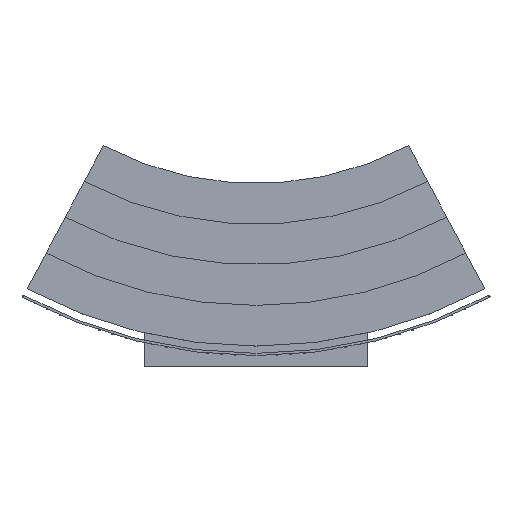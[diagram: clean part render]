
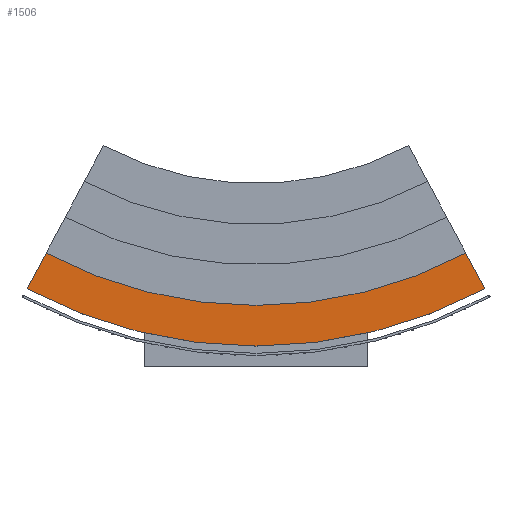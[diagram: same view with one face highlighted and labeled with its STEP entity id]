
A CAD part, top view. The second image highlights one B-rep face of the part: STEP entity #1506.
In plain terms, the highlighted planar face has unit normal (0, 0, 1).
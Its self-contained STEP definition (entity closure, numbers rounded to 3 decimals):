
#1274 = CYLINDRICAL_SURFACE('',#1275,17.078);
#1275 = AXIS2_PLACEMENT_3D('',#1276,#1277,#1278);
#1276 = CARTESIAN_POINT('',(0.,0.,1.45));
#1277 = DIRECTION('',(-0.,-0.,-1.));
#1278 = DIRECTION('',(1.,0.,0.));
#1299 = VERTEX_POINT('',#1300);
#1300 = CARTESIAN_POINT('',(-8.018,-15.079,1.8));
#1314 = PLANE('',#1315);
#1315 = AXIS2_PLACEMENT_3D('',#1316,#1317,#1318);
#1316 = CARTESIAN_POINT('',(-20.045,-37.698,1.35));
#1317 = DIRECTION('',(-0.883,0.469,0.));
#1318 = DIRECTION('',(0.469,0.883,0.));
#1326 = EDGE_CURVE('',#1299,#1327,#1329,.T.);
#1327 = VERTEX_POINT('',#1328);
#1328 = CARTESIAN_POINT('',(8.018,-15.079,1.8));
#1329 = SURFACE_CURVE('',#1330,(#1335,#1342),.PCURVE_S1.);
#1330 = CIRCLE('',#1331,17.078);
#1331 = AXIS2_PLACEMENT_3D('',#1332,#1333,#1334);
#1332 = CARTESIAN_POINT('',(0.,0.,1.8));
#1333 = DIRECTION('',(0.,0.,1.));
#1334 = DIRECTION('',(1.,0.,0.));
#1335 = PCURVE('',#1274,#1336);
#1336 = DEFINITIONAL_REPRESENTATION('',(#1337),#1341);
#1337 = LINE('',#1338,#1339);
#1338 = CARTESIAN_POINT('',(-0.,-0.35));
#1339 = VECTOR('',#1340,1.);
#1340 = DIRECTION('',(-1.,0.));
#1341 = ( GEOMETRIC_REPRESENTATION_CONTEXT(2) 
PARAMETRIC_REPRESENTATION_CONTEXT() REPRESENTATION_CONTEXT('2D SPACE',''
  ) );
#1342 = PCURVE('',#1343,#1348);
#1343 = PLANE('',#1344);
#1344 = AXIS2_PLACEMENT_3D('',#1345,#1346,#1347);
#1345 = CARTESIAN_POINT('',(0.,0.,1.8)
  );
#1346 = DIRECTION('',(0.,0.,1.));
#1347 = DIRECTION('',(1.,0.,-0.));
#1348 = DEFINITIONAL_REPRESENTATION('',(#1349),#1353);
#1349 = CIRCLE('',#1350,17.078);
#1350 = AXIS2_PLACEMENT_2D('',#1351,#1352);
#1351 = CARTESIAN_POINT('',(0.,0.));
#1352 = DIRECTION('',(1.,0.));
#1353 = ( GEOMETRIC_REPRESENTATION_CONTEXT(2) 
PARAMETRIC_REPRESENTATION_CONTEXT() REPRESENTATION_CONTEXT('2D SPACE',''
  ) );
#1369 = PLANE('',#1370);
#1370 = AXIS2_PLACEMENT_3D('',#1371,#1372,#1373);
#1371 = CARTESIAN_POINT('',(0.,0.,1.35));
#1372 = DIRECTION('',(0.883,0.469,-0.));
#1373 = DIRECTION('',(0.469,-0.883,0.));
#1446 = CYLINDRICAL_SURFACE('',#1447,15.655);
#1447 = AXIS2_PLACEMENT_3D('',#1448,#1449,#1450);
#1448 = CARTESIAN_POINT('',(0.,0.,1.45));
#1449 = DIRECTION('',(-0.,-0.,-1.));
#1450 = DIRECTION('',(1.,0.,0.));
#1461 = EDGE_CURVE('',#1327,#1462,#1464,.T.);
#1462 = VERTEX_POINT('',#1463);
#1463 = CARTESIAN_POINT('',(7.35,-13.823,1.8));
#1464 = SURFACE_CURVE('',#1465,(#1469,#1476),.PCURVE_S1.);
#1465 = LINE('',#1466,#1467);
#1466 = CARTESIAN_POINT('',(0.,0.,1.8));
#1467 = VECTOR('',#1468,1.);
#1468 = DIRECTION('',(-0.469,0.883,0.));
#1469 = PCURVE('',#1369,#1470);
#1470 = DEFINITIONAL_REPRESENTATION('',(#1471),#1475);
#1471 = LINE('',#1472,#1473);
#1472 = CARTESIAN_POINT('',(0.,-0.45));
#1473 = VECTOR('',#1474,1.);
#1474 = DIRECTION('',(-1.,-0.));
#1475 = ( GEOMETRIC_REPRESENTATION_CONTEXT(2) 
PARAMETRIC_REPRESENTATION_CONTEXT() REPRESENTATION_CONTEXT('2D SPACE',''
  ) );
#1476 = PCURVE('',#1343,#1477);
#1477 = DEFINITIONAL_REPRESENTATION('',(#1478),#1482);
#1478 = LINE('',#1479,#1480);
#1479 = CARTESIAN_POINT('',(0.,0.));
#1480 = VECTOR('',#1481,1.);
#1481 = DIRECTION('',(-0.469,0.883));
#1482 = ( GEOMETRIC_REPRESENTATION_CONTEXT(2) 
PARAMETRIC_REPRESENTATION_CONTEXT() REPRESENTATION_CONTEXT('2D SPACE',''
  ) );
#1506 = ADVANCED_FACE('',(#1507),#1343,.T.);
#1507 = FACE_BOUND('',#1508,.T.);
#1508 = EDGE_LOOP('',(#1509,#1532,#1533,#1534));
#1509 = ORIENTED_EDGE('',*,*,#1510,.T.);
#1510 = EDGE_CURVE('',#1511,#1299,#1513,.T.);
#1511 = VERTEX_POINT('',#1512);
#1512 = CARTESIAN_POINT('',(-7.35,-13.823,1.8));
#1513 = SURFACE_CURVE('',#1514,(#1518,#1525),.PCURVE_S1.);
#1514 = LINE('',#1515,#1516);
#1515 = CARTESIAN_POINT('',(-10.022,-18.849,1.8));
#1516 = VECTOR('',#1517,1.);
#1517 = DIRECTION('',(-0.469,-0.883,0.));
#1518 = PCURVE('',#1343,#1519);
#1519 = DEFINITIONAL_REPRESENTATION('',(#1520),#1524);
#1520 = LINE('',#1521,#1522);
#1521 = CARTESIAN_POINT('',(-10.022,-18.849));
#1522 = VECTOR('',#1523,1.);
#1523 = DIRECTION('',(-0.469,-0.883));
#1524 = ( GEOMETRIC_REPRESENTATION_CONTEXT(2) 
PARAMETRIC_REPRESENTATION_CONTEXT() REPRESENTATION_CONTEXT('2D SPACE',''
  ) );
#1525 = PCURVE('',#1314,#1526);
#1526 = DEFINITIONAL_REPRESENTATION('',(#1527),#1531);
#1527 = LINE('',#1528,#1529);
#1528 = CARTESIAN_POINT('',(21.348,-0.45));
#1529 = VECTOR('',#1530,1.);
#1530 = DIRECTION('',(-1.,-0.));
#1531 = ( GEOMETRIC_REPRESENTATION_CONTEXT(2) 
PARAMETRIC_REPRESENTATION_CONTEXT() REPRESENTATION_CONTEXT('2D SPACE',''
  ) );
#1532 = ORIENTED_EDGE('',*,*,#1326,.T.);
#1533 = ORIENTED_EDGE('',*,*,#1461,.T.);
#1534 = ORIENTED_EDGE('',*,*,#1535,.F.);
#1535 = EDGE_CURVE('',#1511,#1462,#1536,.T.);
#1536 = SURFACE_CURVE('',#1537,(#1542,#1549),.PCURVE_S1.);
#1537 = CIRCLE('',#1538,15.655);
#1538 = AXIS2_PLACEMENT_3D('',#1539,#1540,#1541);
#1539 = CARTESIAN_POINT('',(0.,0.,1.8));
#1540 = DIRECTION('',(0.,0.,1.));
#1541 = DIRECTION('',(1.,0.,0.));
#1542 = PCURVE('',#1343,#1543);
#1543 = DEFINITIONAL_REPRESENTATION('',(#1544),#1548);
#1544 = CIRCLE('',#1545,15.655);
#1545 = AXIS2_PLACEMENT_2D('',#1546,#1547);
#1546 = CARTESIAN_POINT('',(0.,0.));
#1547 = DIRECTION('',(1.,0.));
#1548 = ( GEOMETRIC_REPRESENTATION_CONTEXT(2) 
PARAMETRIC_REPRESENTATION_CONTEXT() REPRESENTATION_CONTEXT('2D SPACE',''
  ) );
#1549 = PCURVE('',#1446,#1550);
#1550 = DEFINITIONAL_REPRESENTATION('',(#1551),#1555);
#1551 = LINE('',#1552,#1553);
#1552 = CARTESIAN_POINT('',(-0.,-0.35));
#1553 = VECTOR('',#1554,1.);
#1554 = DIRECTION('',(-1.,0.));
#1555 = ( GEOMETRIC_REPRESENTATION_CONTEXT(2) 
PARAMETRIC_REPRESENTATION_CONTEXT() REPRESENTATION_CONTEXT('2D SPACE',''
  ) );
